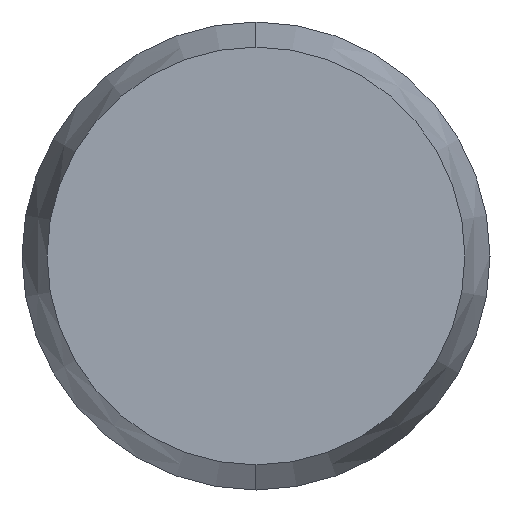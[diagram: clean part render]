
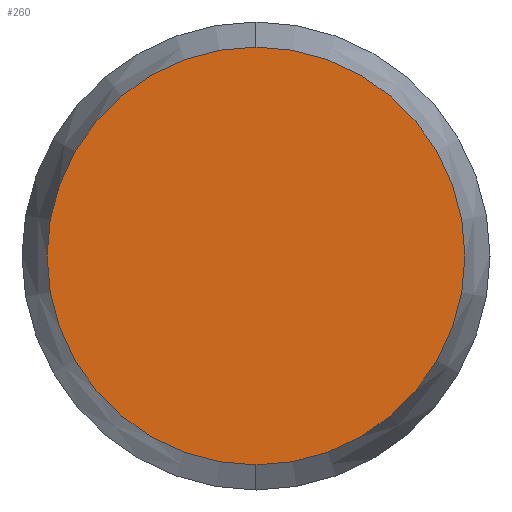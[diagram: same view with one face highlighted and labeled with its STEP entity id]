
A CAD part, left-side view. The second image highlights one B-rep face of the part: STEP entity #260.
In plain terms, the highlighted planar face has unit normal (-1, 0, 0).
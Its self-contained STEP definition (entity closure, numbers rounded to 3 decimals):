
#10 = AXIS2_PLACEMENT_3D ( 'NONE', #140, #186, #191 ) ;
#12 = EDGE_CURVE ( 'NONE', #273, #20, #23, .T. ) ;
#14 = DIRECTION ( 'NONE',  ( 0., 0., -1. ) ) ;
#20 = VERTEX_POINT ( 'NONE', #125 ) ;
#21 = EDGE_CURVE ( 'NONE', #20, #273, #56, .T. ) ;
#23 = CIRCLE ( 'NONE', #77, 4.464 ) ;
#40 = ORIENTED_EDGE ( 'NONE', *, *, #12, .T. ) ;
#56 = CIRCLE ( 'NONE', #10, 4.464 ) ;
#77 = AXIS2_PLACEMENT_3D ( 'NONE', #268, #144, #105 ) ;
#105 = DIRECTION ( 'NONE',  ( 0., 0., 1. ) ) ;
#106 = FACE_OUTER_BOUND ( 'NONE', #203, .T. ) ;
#125 = CARTESIAN_POINT ( 'NONE',  ( 0., 0., 4.464 ) ) ;
#131 = DIRECTION ( 'NONE',  ( 1., 0., 0. ) ) ;
#140 = CARTESIAN_POINT ( 'NONE',  ( 0., 0., 0. ) ) ;
#144 = DIRECTION ( 'NONE',  ( -1., 0., 0. ) ) ;
#158 = AXIS2_PLACEMENT_3D ( 'NONE', #164, #131, #14 ) ;
#164 = CARTESIAN_POINT ( 'NONE',  ( 0., 4.464, 0. ) ) ;
#186 = DIRECTION ( 'NONE',  ( -1., 0., 0. ) ) ;
#191 = DIRECTION ( 'NONE',  ( 0., 0., 1. ) ) ;
#192 = PLANE ( 'NONE',  #158 ) ;
#203 = EDGE_LOOP ( 'NONE', ( #40, #225 ) ) ;
#225 = ORIENTED_EDGE ( 'NONE', *, *, #21, .T. ) ;
#243 = CARTESIAN_POINT ( 'NONE',  ( 0., 0., -4.464 ) ) ;
#260 = ADVANCED_FACE ( 'NONE', ( #106 ), #192, .F. ) ;
#268 = CARTESIAN_POINT ( 'NONE',  ( 0., 0., 0. ) ) ;
#273 = VERTEX_POINT ( 'NONE', #243 ) ;
